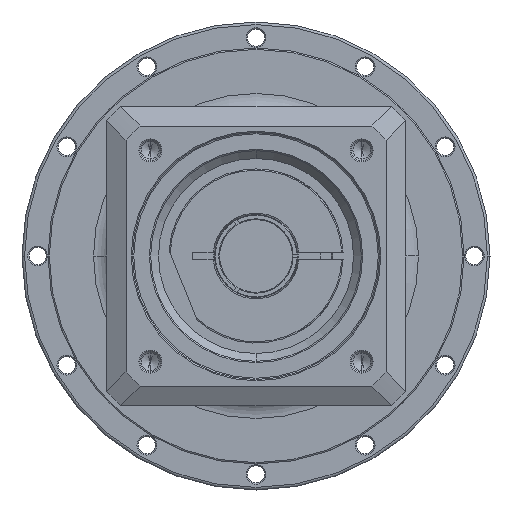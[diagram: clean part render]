
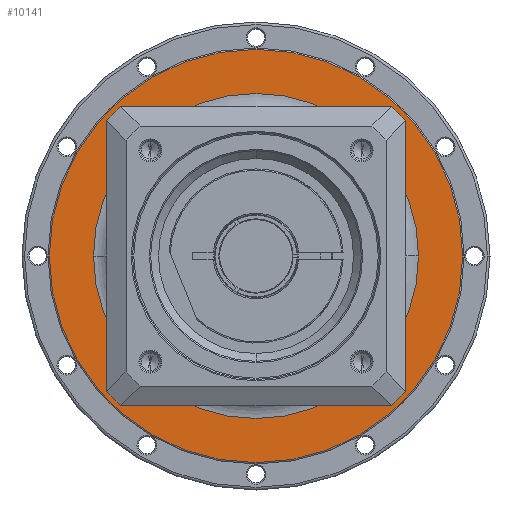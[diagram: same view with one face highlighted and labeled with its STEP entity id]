
A CAD part, left-side view. The second image highlights one B-rep face of the part: STEP entity #10141.
In plain terms, the highlighted planar face has unit normal (-1, 0, 0) as drawn and (1, 0, 0) by its records, which use the part's own axes.
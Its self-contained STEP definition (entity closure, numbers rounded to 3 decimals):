
#9172=CARTESIAN_POINT('',(-9.,0.,0.));
#9173=DIRECTION('',(-1.,0.,0.));
#9174=DIRECTION('',(0.,-1.,0.));
#9175=AXIS2_PLACEMENT_3D('',#9172,#9173,#9174);
#9177=CARTESIAN_POINT('',(-9.,0.,0.));
#9178=DIRECTION('',(-1.,0.,0.));
#9179=DIRECTION('',(0.,1.,0.));
#9180=AXIS2_PLACEMENT_3D('',#9177,#9178,#9179);
#9182=CARTESIAN_POINT('',(-9.,0.,0.));
#9183=DIRECTION('',(-1.,0.,0.));
#9184=DIRECTION('',(0.,-1.,0.));
#9185=AXIS2_PLACEMENT_3D('',#9182,#9183,#9184);
#9187=CARTESIAN_POINT('',(-9.,0.,0.));
#9188=DIRECTION('',(-1.,0.,0.));
#9189=DIRECTION('',(0.,1.,0.));
#9190=AXIS2_PLACEMENT_3D('',#9187,#9188,#9189);
#9434=CARTESIAN_POINT('',(-9.,-79.5,0.));
#9435=CARTESIAN_POINT('',(-9.,79.5,0.));
#9436=VERTEX_POINT('',#9434);
#9437=VERTEX_POINT('',#9435);
#9492=CARTESIAN_POINT('',(-9.,-62.5,0.));
#9493=CARTESIAN_POINT('',(-9.,62.5,0.));
#9494=VERTEX_POINT('',#9492);
#9495=VERTEX_POINT('',#9493);
#10126=CARTESIAN_POINT('',(-9.,0.,0.));
#10127=DIRECTION('',(1.,0.,0.));
#10128=DIRECTION('',(0.,-1.,0.));
#10129=AXIS2_PLACEMENT_3D('',#10126,#10127,#10128);
#10130=PLANE('',#10129);
#10131=ORIENTED_EDGE('',*,*,#10082,.T.);
#10132=ORIENTED_EDGE('',*,*,#10067,.T.);
#10133=EDGE_LOOP('',(#10131,#10132));
#10134=FACE_OUTER_BOUND('',#10133,.F.);
#10136=ORIENTED_EDGE('',*,*,#10135,.F.);
#10138=ORIENTED_EDGE('',*,*,#10137,.F.);
#10139=EDGE_LOOP('',(#10136,#10138));
#10140=FACE_BOUND('',#10139,.F.);
#10141=ADVANCED_FACE('',(#10134,#10140),#10130,.T.);
#9176=CIRCLE('',#9175,62.5);
#9181=CIRCLE('',#9180,62.5);
#9186=CIRCLE('',#9185,79.5);
#9191=CIRCLE('',#9190,79.5);
#10067=EDGE_CURVE('',#9437,#9436,#9191,.T.);
#10082=EDGE_CURVE('',#9436,#9437,#9186,.T.);
#10135=EDGE_CURVE('',#9494,#9495,#9176,.T.);
#10137=EDGE_CURVE('',#9495,#9494,#9181,.T.);
